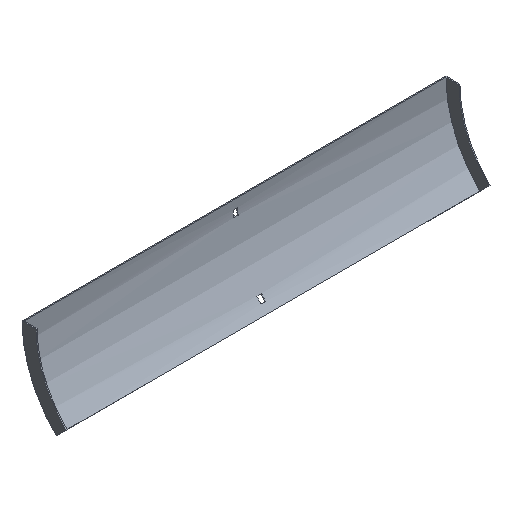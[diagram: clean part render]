
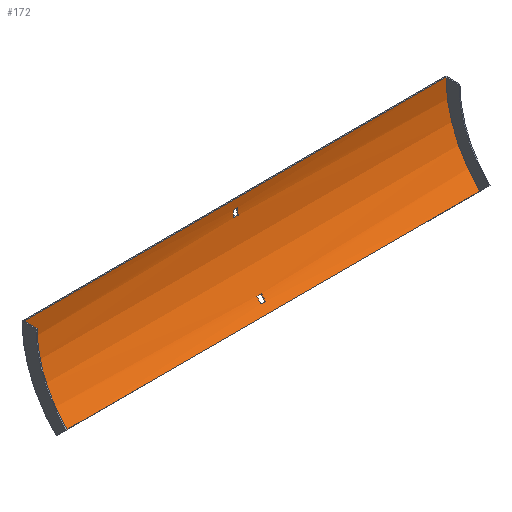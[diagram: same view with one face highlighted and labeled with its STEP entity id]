
A CAD part, isometric view. The second image highlights one B-rep face of the part: STEP entity #172.
In plain terms, the highlighted cylindrical face has radius 165.5 mm (diameter 331 mm), a partial arc.
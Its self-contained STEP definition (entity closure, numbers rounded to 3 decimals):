
#6 = CARTESIAN_POINT ( 'NONE',  ( -3.25, -167., 0. ) ) ;
#8 = DIRECTION ( 'NONE',  ( 1., 0., 0. ) ) ;
#12 = FACE_OUTER_BOUND ( 'NONE', #475, .T. ) ;
#13 = CIRCLE ( 'NONE', #519, 165.5 ) ;
#23 = VERTEX_POINT ( 'NONE', #604 ) ;
#25 = LINE ( 'NONE', #392, #396 ) ;
#28 = VERTEX_POINT ( 'NONE', #33 ) ;
#29 = VERTEX_POINT ( 'NONE', #221 ) ;
#33 = CARTESIAN_POINT ( 'NONE',  ( -3.25, -41.797, -108.233 ) ) ;
#48 = CARTESIAN_POINT ( 'NONE',  ( 303.5, -1.936, -12. ) ) ;
#54 = EDGE_CURVE ( 'NONE', #325, #23, #124, .T. ) ;
#60 = EDGE_LOOP ( 'NONE', ( #311, #486, #427, #215 ) ) ;
#66 = CARTESIAN_POINT ( 'NONE',  ( 302., -49.974, -117.026 ) ) ;
#71 = EDGE_CURVE ( 'NONE', #23, #494, #77, .T. ) ;
#77 = LINE ( 'NONE', #132, #565 ) ;
#89 = CARTESIAN_POINT ( 'NONE',  ( 3.25, -1.936, -12. ) ) ;
#90 = ORIENTED_EDGE ( 'NONE', *, *, #181, .T. ) ;
#91 = VERTEX_POINT ( 'NONE', #273 ) ;
#95 = DIRECTION ( 'NONE',  ( 1., 0., 0. ) ) ;
#98 = DIRECTION ( 'NONE',  ( -1., 0., 0. ) ) ;
#102 = DIRECTION ( 'NONE',  ( 0., 0., 1. ) ) ;
#124 = CIRCLE ( 'NONE', #364, 165.5 ) ;
#126 = CARTESIAN_POINT ( 'NONE',  ( 302., -167., 0. ) ) ;
#131 = EDGE_CURVE ( 'NONE', #187, #408, #321, .T. ) ;
#132 = CARTESIAN_POINT ( 'NONE',  ( 302., -1.5, 0. ) ) ;
#136 = DIRECTION ( 'NONE',  ( 0., 0., 1. ) ) ;
#137 = CIRCLE ( 'NONE', #493, 165.5 ) ;
#139 = CYLINDRICAL_SURFACE ( 'NONE', #167, 165.5 ) ;
#162 = VERTEX_POINT ( 'NONE', #568 ) ;
#165 = ORIENTED_EDGE ( 'NONE', *, *, #285, .T. ) ;
#167 = AXIS2_PLACEMENT_3D ( 'NONE', #186, #98, #136 ) ;
#168 = EDGE_LOOP ( 'NONE', ( #425, #90, #165, #200 ) ) ;
#172 = ADVANCED_FACE ( 'NONE', ( #528, #12, #532 ), #139, .F. ) ;
#177 = CARTESIAN_POINT ( 'NONE',  ( -302., -1.5, 0. ) ) ;
#181 = EDGE_CURVE ( 'NONE', #28, #162, #13, .T. ) ;
#186 = CARTESIAN_POINT ( 'NONE',  ( 303.5, -167., 0. ) ) ;
#187 = VERTEX_POINT ( 'NONE', #284 ) ;
#192 = DIRECTION ( 'NONE',  ( -1., 0., 0. ) ) ;
#194 = DIRECTION ( 'NONE',  ( -1., 0., 0. ) ) ;
#198 = DIRECTION ( 'NONE',  ( -1., 0., 0. ) ) ;
#200 = ORIENTED_EDGE ( 'NONE', *, *, #347, .T. ) ;
#202 = CARTESIAN_POINT ( 'NONE',  ( -3.25, -1.936, -12. ) ) ;
#208 = ORIENTED_EDGE ( 'NONE', *, *, #234, .F. ) ;
#209 = CIRCLE ( 'NONE', #348, 165.5 ) ;
#215 = ORIENTED_EDGE ( 'NONE', *, *, #131, .F. ) ;
#221 = CARTESIAN_POINT ( 'NONE',  ( -302., -49.974, -117.026 ) ) ;
#230 = CARTESIAN_POINT ( 'NONE',  ( 302., -49.974, -117.026 ) ) ;
#234 = EDGE_CURVE ( 'NONE', #29, #494, #409, .T. ) ;
#238 = DIRECTION ( 'NONE',  ( 0., 0., 1. ) ) ;
#239 = DIRECTION ( 'NONE',  ( 0., 0., -1. ) ) ;
#240 = DIRECTION ( 'NONE',  ( 0., 0., -1. ) ) ;
#248 = VECTOR ( 'NONE', #430, 1000. ) ;
#252 = EDGE_CURVE ( 'NONE', #325, #29, #336, .T. ) ;
#257 = VECTOR ( 'NONE', #468, 1000. ) ;
#273 = CARTESIAN_POINT ( 'NONE',  ( 3.25, -41.797, -108.233 ) ) ;
#284 = CARTESIAN_POINT ( 'NONE',  ( -3.25, -2.838, -21. ) ) ;
#285 = EDGE_CURVE ( 'NONE', #162, #477, #25, .T. ) ;
#287 = CARTESIAN_POINT ( 'NONE',  ( -3.25, -167., 0. ) ) ;
#296 = CIRCLE ( 'NONE', #451, 165.5 ) ;
#298 = AXIS2_PLACEMENT_3D ( 'NONE', #435, #8, #563 ) ;
#306 = VERTEX_POINT ( 'NONE', #202 ) ;
#311 = ORIENTED_EDGE ( 'NONE', *, *, #557, .F. ) ;
#314 = DIRECTION ( 'NONE',  ( 1., 0., 0. ) ) ;
#321 = LINE ( 'NONE', #518, #257 ) ;
#322 = ORIENTED_EDGE ( 'NONE', *, *, #71, .T. ) ;
#325 = VERTEX_POINT ( 'NONE', #66 ) ;
#326 = VECTOR ( 'NONE', #192, 1000. ) ;
#336 = LINE ( 'NONE', #230, #440 ) ;
#347 = EDGE_CURVE ( 'NONE', #477, #91, #209, .T. ) ;
#348 = AXIS2_PLACEMENT_3D ( 'NONE', #349, #541, #102 ) ;
#349 = CARTESIAN_POINT ( 'NONE',  ( 3.25, -167., 0. ) ) ;
#364 = AXIS2_PLACEMENT_3D ( 'NONE', #126, #314, #549 ) ;
#374 = CARTESIAN_POINT ( 'NONE',  ( 3.25, -36.071, -101.231 ) ) ;
#392 = CARTESIAN_POINT ( 'NONE',  ( 303.5, -36.071, -101.231 ) ) ;
#396 = VECTOR ( 'NONE', #462, 1000. ) ;
#405 = ORIENTED_EDGE ( 'NONE', *, *, #54, .T. ) ;
#406 = EDGE_CURVE ( 'NONE', #91, #28, #421, .T. ) ;
#408 = VERTEX_POINT ( 'NONE', #562 ) ;
#409 = CIRCLE ( 'NONE', #298, 165.5 ) ;
#415 = DIRECTION ( 'NONE',  ( -1., 0., 0. ) ) ;
#421 = LINE ( 'NONE', #465, #248 ) ;
#425 = ORIENTED_EDGE ( 'NONE', *, *, #406, .T. ) ;
#427 = ORIENTED_EDGE ( 'NONE', *, *, #515, .F. ) ;
#430 = DIRECTION ( 'NONE',  ( -1., 0., 0. ) ) ;
#435 = CARTESIAN_POINT ( 'NONE',  ( -302., -167., 0. ) ) ;
#440 = VECTOR ( 'NONE', #198, 1000. ) ;
#451 = AXIS2_PLACEMENT_3D ( 'NONE', #287, #194, #238 ) ;
#457 = VERTEX_POINT ( 'NONE', #89 ) ;
#462 = DIRECTION ( 'NONE',  ( 1., 0., 0. ) ) ;
#465 = CARTESIAN_POINT ( 'NONE',  ( 303.5, -41.797, -108.233 ) ) ;
#468 = DIRECTION ( 'NONE',  ( 1., 0., 0. ) ) ;
#475 = EDGE_LOOP ( 'NONE', ( #208, #537, #405, #322 ) ) ;
#477 = VERTEX_POINT ( 'NONE', #374 ) ;
#478 = LINE ( 'NONE', #48, #326 ) ;
#486 = ORIENTED_EDGE ( 'NONE', *, *, #499, .F. ) ;
#493 = AXIS2_PLACEMENT_3D ( 'NONE', #538, #95, #240 ) ;
#494 = VERTEX_POINT ( 'NONE', #177 ) ;
#499 = EDGE_CURVE ( 'NONE', #457, #306, #478, .T. ) ;
#515 = EDGE_CURVE ( 'NONE', #408, #457, #137, .T. ) ;
#518 = CARTESIAN_POINT ( 'NONE',  ( 303.5, -2.838, -21. ) ) ;
#519 = AXIS2_PLACEMENT_3D ( 'NONE', #6, #535, #239 ) ;
#528 = FACE_BOUND ( 'NONE', #60, .T. ) ;
#532 = FACE_BOUND ( 'NONE', #168, .T. ) ;
#535 = DIRECTION ( 'NONE',  ( 1., 0., 0. ) ) ;
#537 = ORIENTED_EDGE ( 'NONE', *, *, #252, .F. ) ;
#538 = CARTESIAN_POINT ( 'NONE',  ( 3.25, -167., 0. ) ) ;
#541 = DIRECTION ( 'NONE',  ( -1., 0., 0. ) ) ;
#549 = DIRECTION ( 'NONE',  ( 0., 0., 1. ) ) ;
#557 = EDGE_CURVE ( 'NONE', #306, #187, #296, .T. ) ;
#562 = CARTESIAN_POINT ( 'NONE',  ( 3.25, -2.838, -21. ) ) ;
#563 = DIRECTION ( 'NONE',  ( 0., 0., 1. ) ) ;
#565 = VECTOR ( 'NONE', #415, 1000. ) ;
#568 = CARTESIAN_POINT ( 'NONE',  ( -3.25, -36.071, -101.231 ) ) ;
#604 = CARTESIAN_POINT ( 'NONE',  ( 302., -1.5, 0. ) ) ;
